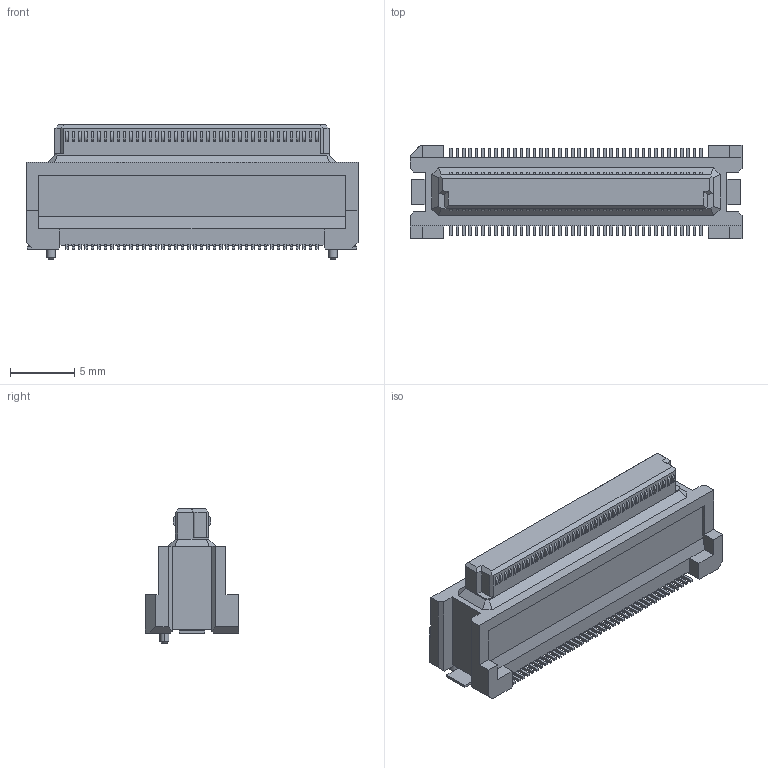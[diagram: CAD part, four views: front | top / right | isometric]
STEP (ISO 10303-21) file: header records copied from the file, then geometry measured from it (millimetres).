
FILE_DESCRIPTION(('Creo Elements/Direct Modeling STEP Export'),'2;1');
FILE_NAME('DY11-080FS-1.stp','2017-11-28T11:27:43',(''),(''),'Creo Elements/Direct Modeling STEP processor for AP214 (Solid Model)','Creo Elements/Direct Modeling 19.0F 14-Feb-2017 (C) Parametric Technology GmbH','');
FILE_SCHEMA(('AUTOMOTIVE_DESIGN { 1 0 10303 214 1 1 1 1 }'));
Length unit declared in the file: millimetre
Products named in the file (2): DY11-080FS-1
Assembly tree (1 placements, depth 2):
  DY11-080FS-1
    DY11-080FS-1
Bounding box: 25.9 x 7.3 x 10.5 mm (x, y, z)
Volume: 1002.9 mm3; surface area: 1023.8 mm2
Topology: 1 solids, 1 shells, 1918 faces, 5449 edges, 3618 vertices
Faces by surface type: plane 1418, cylinder 488, bspline 8, cone 4
Entity records: 60512 total; most frequent: CARTESIAN_POINT 11690, ORIENTED_EDGE 10898, DIRECTION 9388, EDGE_CURVE 5449, VECTOR 4076, LINE 4076, VERTEX_POINT 3618, AXIS2_PLACEMENT_3D 2656
